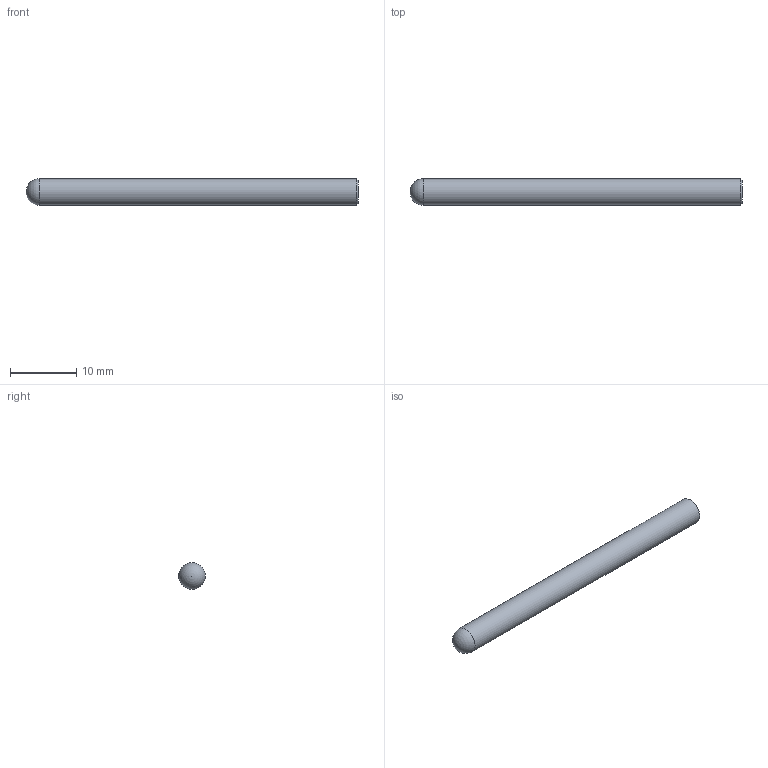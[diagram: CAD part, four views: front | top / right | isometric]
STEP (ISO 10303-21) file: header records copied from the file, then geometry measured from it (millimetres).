
FILE_DESCRIPTION(/* description */ (''),/* implementation_level */ '2;1');
FILE_NAME(/* name */ 'HSXB2040 0450.stp',/* time_stamp */ '2026-08-01T17:09:21+08:00',/* author */ (''),/* organization */ (''),/* preprocessor_version */ 'ST-DEVELOPER v16',/* originating_system */ 'SIEMENS PLM Software NX 10.0',/* authorisation */ '');
FILE_SCHEMA (('CONFIG_CONTROL_DESIGN'));
Length unit declared in the file: millimetre
Products named in the file (1): HSXB2040 0450_dxf
Bounding box: 50 x 4 x 4 mm (x, y, z)
Volume: 619.7 mm3; surface area: 639.4 mm2
Topology: 1 solids, 1 shells, 4 faces, 8 edges, 5 vertices
Faces by surface type: plane 1, sphere 1, cylinder 1, cone 1
Full cylindrical faces by diameter (mm): 4 x1
Entity records: 158 total; most frequent: DIRECTION 16, CARTESIAN_POINT 11, AXIS2_PLACEMENT_3D 8, PERSON_AND_ORGANIZATION 7, ORGANIZATION 7, EDGE_LOOP 6, ORIENTED_EDGE 6, DATE_AND_TIME 5
